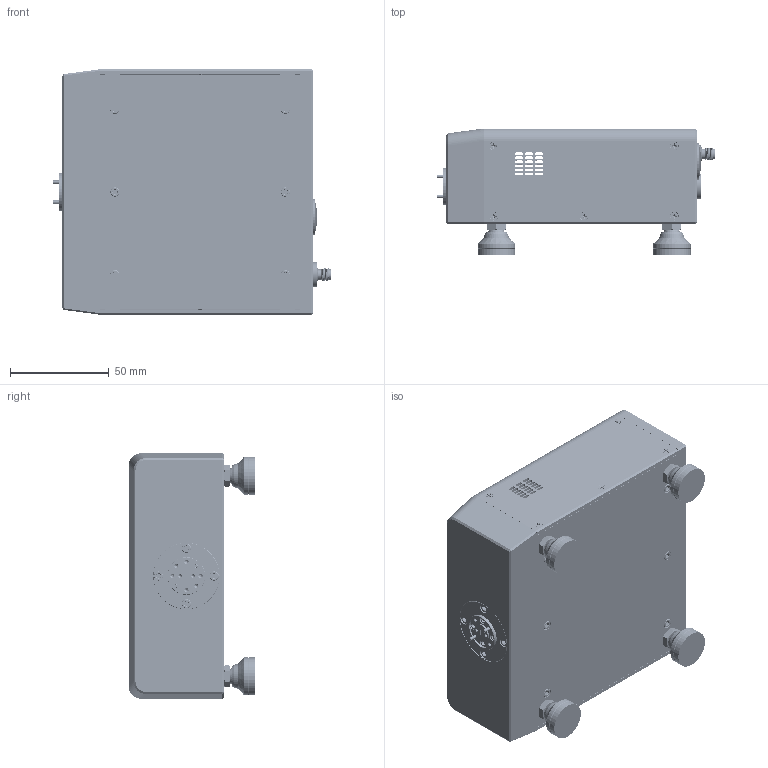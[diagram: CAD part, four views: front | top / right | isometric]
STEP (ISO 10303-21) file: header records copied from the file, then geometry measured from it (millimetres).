
FILE_DESCRIPTION (( 'STEP AP214' ), '1' );
FILE_NAME ('TC-E-A-IDP.STEP', '2026-01-02T21:17:20', ( '' ), ( '' ), 'SwSTEP 2.0', 'SolidWorks 2021', '' );
FILE_SCHEMA (( 'AUTOMOTIVE_DESIGN' ));
Length unit declared in the file: inch
Products named in the file (1): TC-E-A-IDP
Bounding box: 140.66 x 64.14 x 124.32 mm (x, y, z)
Volume: 281716.5 mm3; surface area: 147839.5 mm2
Topology: 57 solids, 57 shells, 3591 faces, 9585 edges, 6082 vertices
Faces by surface type: cylinder 1724, plane 924, cone 643, bspline 260, sphere 38, torus 2
Entity records: 251563 total; most frequent: CARTESIAN_POINT 170681, ORIENTED_EDGE 18802, DIRECTION 14573, EDGE_CURVE 9401, VERTEX_POINT 6074, AXIS2_PLACEMENT_3D 5432, EDGE_LOOP 3935, LINE 3709
